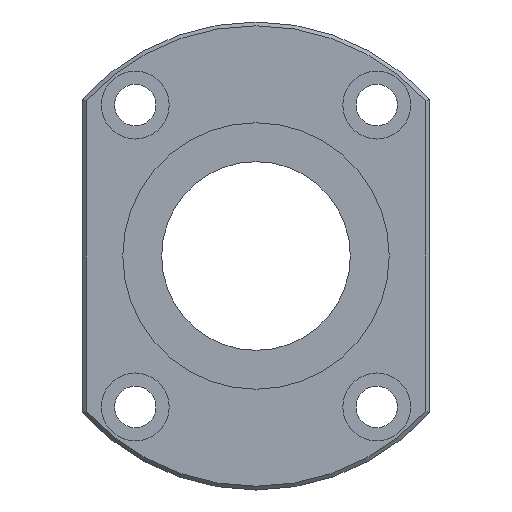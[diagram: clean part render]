
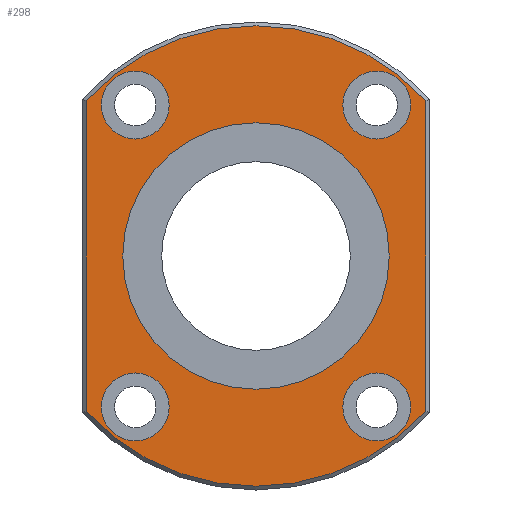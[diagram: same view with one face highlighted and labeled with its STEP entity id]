
A CAD part, left-side view. The second image highlights one B-rep face of the part: STEP entity #298.
In plain terms, the highlighted planar face has unit normal (-1, 0, 0).
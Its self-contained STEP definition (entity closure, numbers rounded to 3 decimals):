
#59=CARTESIAN_POINT('',(0.,22.5,-20.591));
#60=VERTEX_POINT('',#59);
#68=CARTESIAN_POINT('',(0.,22.5,20.591));
#69=VERTEX_POINT('',#68);
#70=CARTESIAN_POINT('',(0.,22.5,-20.591));
#71=DIRECTION('',(0.0,0.0,1.0));
#72=VECTOR('',#71,41.183);
#73=LINE('',#70,#72);
#74=EDGE_CURVE('',#60,#69,#73,.T.);
#101=CARTESIAN_POINT('',(0.,-22.5,20.591));
#102=VERTEX_POINT('',#101);
#103=CARTESIAN_POINT('',(0.,0.0,0.0));
#104=DIRECTION('',(1.0,0.0,0.0));
#105=DIRECTION('',(0.0,0.0,1.0));
#106=AXIS2_PLACEMENT_3D('',#103,#104,#105);
#107=CIRCLE('',#106,30.5);
#108=EDGE_CURVE('',#69,#102,#107,.T.);
#134=CARTESIAN_POINT('',(0.,-22.5,-20.591));
#135=VERTEX_POINT('',#134);
#136=CARTESIAN_POINT('',(0.,-22.5,20.591));
#137=DIRECTION('',(0.0,0.0,-1.0));
#138=VECTOR('',#137,41.183);
#139=LINE('',#136,#138);
#140=EDGE_CURVE('',#102,#135,#139,.T.);
#165=CARTESIAN_POINT('',(0.,0.0,0.0));
#166=DIRECTION('',(1.0,0.0,0.0));
#167=DIRECTION('',(0.0,0.0,-1.0));
#168=AXIS2_PLACEMENT_3D('',#165,#166,#167);
#169=CIRCLE('',#168,30.5);
#170=EDGE_CURVE('',#135,#60,#169,.T.);
#232=CARTESIAN_POINT('',(0.,0.0,18.825));
#233=DIRECTION('',(-1.0,0.0,0.0));
#234=DIRECTION('',(0.0,0.0,1.0));
#235=AXIS2_PLACEMENT_3D('',#232,#233,#234);
#236=PLANE('',#235);
#237=ORIENTED_EDGE('',*,*,#74,.F.);
#238=ORIENTED_EDGE('',*,*,#170,.F.);
#239=ORIENTED_EDGE('',*,*,#140,.F.);
#240=ORIENTED_EDGE('',*,*,#108,.F.);
#241=EDGE_LOOP('',(#237,#238,#239,#240));
#242=FACE_OUTER_BOUND('',#241,.T.);
#243=CARTESIAN_POINT('',(0.,0.0,17.65));
#244=VERTEX_POINT('',#243);
#245=CARTESIAN_POINT('',(0.,0.0,0.0));
#246=DIRECTION('',(-1.0,0.0,0.0));
#247=DIRECTION('',(0.0,0.0,1.0));
#248=AXIS2_PLACEMENT_3D('',#245,#246,#247);
#249=CIRCLE('',#248,17.65);
#250=EDGE_CURVE('',#244,#244,#249,.T.);
#251=ORIENTED_EDGE('',*,*,#250,.F.);
#252=EDGE_LOOP('',(#251));
#253=FACE_BOUND('',#252,.T.);
#254=CARTESIAN_POINT('',(0.0,-11.5,-20.));
#255=VERTEX_POINT('',#254);
#256=CARTESIAN_POINT('',(0.,-16.,-20.));
#257=DIRECTION('',(1.0,0.0,0.0));
#258=DIRECTION('',(0.0,1.0,0.0));
#259=AXIS2_PLACEMENT_3D('',#256,#257,#258);
#260=CIRCLE('',#259,4.5);
#261=EDGE_CURVE('',#255,#255,#260,.T.);
#262=ORIENTED_EDGE('',*,*,#261,.T.);
#263=EDGE_LOOP('',(#262));
#264=FACE_BOUND('',#263,.T.);
#265=CARTESIAN_POINT('',(0.0,-11.5,20.));
#266=VERTEX_POINT('',#265);
#267=CARTESIAN_POINT('',(0.,-16.,20.));
#268=DIRECTION('',(1.0,0.0,0.0));
#269=DIRECTION('',(0.0,1.0,0.0));
#270=AXIS2_PLACEMENT_3D('',#267,#268,#269);
#271=CIRCLE('',#270,4.5);
#272=EDGE_CURVE('',#266,#266,#271,.T.);
#273=ORIENTED_EDGE('',*,*,#272,.T.);
#274=EDGE_LOOP('',(#273));
#275=FACE_BOUND('',#274,.T.);
#276=CARTESIAN_POINT('',(0.0,20.5,-20.));
#277=VERTEX_POINT('',#276);
#278=CARTESIAN_POINT('',(0.,16.,-20.));
#279=DIRECTION('',(1.0,0.0,0.0));
#280=DIRECTION('',(0.0,1.0,0.0));
#281=AXIS2_PLACEMENT_3D('',#278,#279,#280);
#282=CIRCLE('',#281,4.5);
#283=EDGE_CURVE('',#277,#277,#282,.T.);
#284=ORIENTED_EDGE('',*,*,#283,.T.);
#285=EDGE_LOOP('',(#284));
#286=FACE_BOUND('',#285,.T.);
#287=CARTESIAN_POINT('',(0.0,20.5,20.));
#288=VERTEX_POINT('',#287);
#289=CARTESIAN_POINT('',(0.,16.,20.));
#290=DIRECTION('',(1.0,0.0,0.0));
#291=DIRECTION('',(0.0,1.0,0.0));
#292=AXIS2_PLACEMENT_3D('',#289,#290,#291);
#293=CIRCLE('',#292,4.5);
#294=EDGE_CURVE('',#288,#288,#293,.T.);
#295=ORIENTED_EDGE('',*,*,#294,.T.);
#296=EDGE_LOOP('',(#295));
#297=FACE_BOUND('',#296,.T.);
#298=ADVANCED_FACE('',(#242,#253,#264,#275,#286,#297),#236,.T.);
